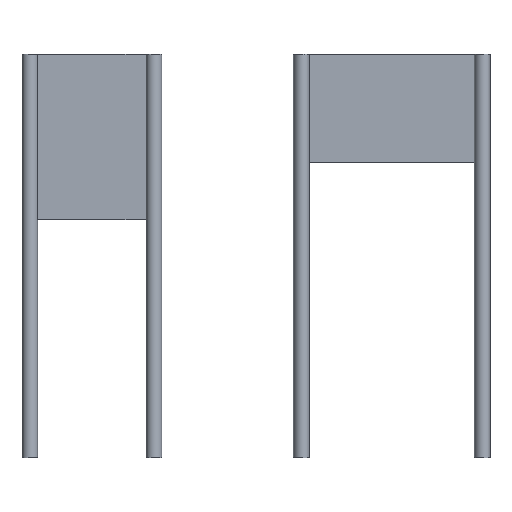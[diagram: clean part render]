
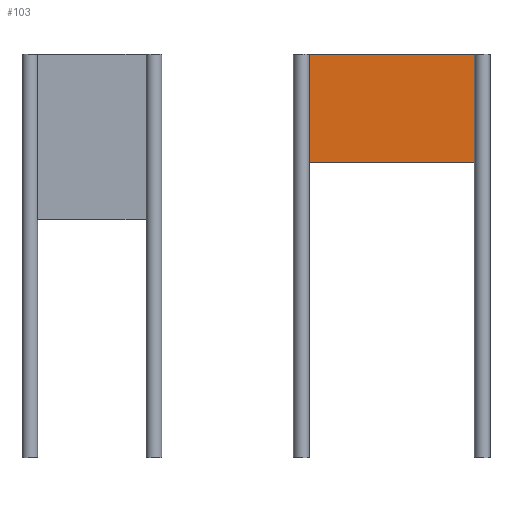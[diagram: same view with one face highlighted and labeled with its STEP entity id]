
A CAD part, front view. The second image highlights one B-rep face of the part: STEP entity #103.
In plain terms, the highlighted planar face has unit normal (0, -1, 0).
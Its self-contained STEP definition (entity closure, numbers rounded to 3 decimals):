
#103=ADVANCED_FACE('',(#131),#412,.T.);
#131=FACE_OUTER_BOUND('',#159,.T.);
#159=EDGE_LOOP('',(#219,#220,#221,#222));
#219=ORIENTED_EDGE('',*,*,#294,.F.);
#220=ORIENTED_EDGE('',*,*,#293,.F.);
#221=ORIENTED_EDGE('',*,*,#292,.F.);
#222=ORIENTED_EDGE('',*,*,#291,.F.);
#291=EDGE_CURVE('',#380,#381,#320,.T.);
#292=EDGE_CURVE('',#381,#382,#321,.T.);
#293=EDGE_CURVE('',#382,#383,#322,.T.);
#294=EDGE_CURVE('',#383,#380,#323,.T.);
#320=B_SPLINE_CURVE_WITH_KNOTS('',1,(#710,#711),.UNSPECIFIED.,.F.,.F.,(2,
2),(0.,640.),.UNSPECIFIED.);
#321=B_SPLINE_CURVE_WITH_KNOTS('',1,(#712,#713),.UNSPECIFIED.,.F.,.F.,(2,
2),(0.,420.),.UNSPECIFIED.);
#322=B_SPLINE_CURVE_WITH_KNOTS('',1,(#714,#715),.UNSPECIFIED.,.F.,.F.,(2,
2),(0.,640.),.UNSPECIFIED.);
#323=B_SPLINE_CURVE_WITH_KNOTS('',1,(#716,#717),.UNSPECIFIED.,.F.,.F.,(2,
2),(0.,420.),.UNSPECIFIED.);
#380=VERTEX_POINT('',#702);
#381=VERTEX_POINT('',#703);
#382=VERTEX_POINT('',#704);
#383=VERTEX_POINT('',#705);
#412=PLANE('',#452);
#452=AXIS2_PLACEMENT_3D('',#696,#476,$);
#476=DIRECTION('',(0.,-1.,0.));
#696=CARTESIAN_POINT('',(1750.,-2.5,1560.));
#702=CARTESIAN_POINT('',(1110.,-2.5,1560.));
#703=CARTESIAN_POINT('',(1750.,-2.5,1560.));
#704=CARTESIAN_POINT('',(1750.,-2.5,1140.));
#705=CARTESIAN_POINT('',(1110.,-2.5,1140.));
#710=CARTESIAN_POINT('',(1110.,-2.5,1560.));
#711=CARTESIAN_POINT('',(1750.,-2.5,1560.));
#712=CARTESIAN_POINT('',(1750.,-2.5,1560.));
#713=CARTESIAN_POINT('',(1750.,-2.5,1140.));
#714=CARTESIAN_POINT('',(1750.,-2.5,1140.));
#715=CARTESIAN_POINT('',(1110.,-2.5,1140.));
#716=CARTESIAN_POINT('',(1110.,-2.5,1140.));
#717=CARTESIAN_POINT('',(1110.,-2.5,1560.));
